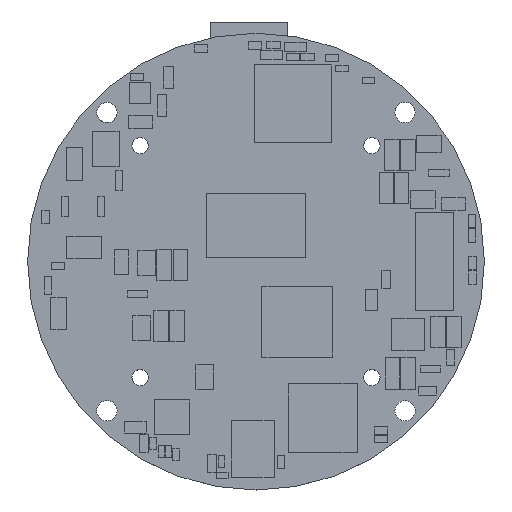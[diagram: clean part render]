
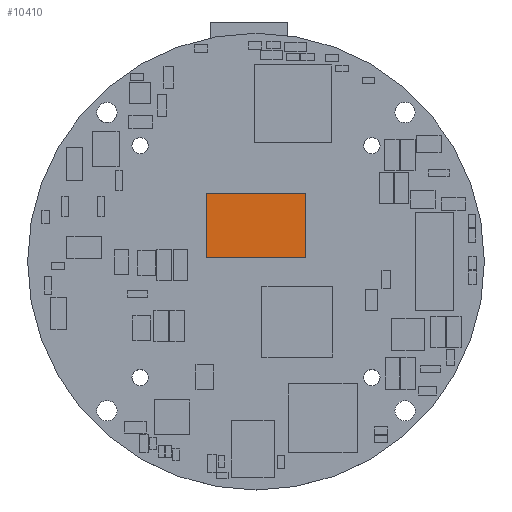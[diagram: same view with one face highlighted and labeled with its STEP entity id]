
A CAD part, top view. The second image highlights one B-rep face of the part: STEP entity #10410.
In plain terms, the highlighted planar face has unit normal (0, 0, 1).
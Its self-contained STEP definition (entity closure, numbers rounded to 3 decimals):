
#1719=DIRECTION('',(0.,-1.,0.));
#1720=VECTOR('',#1719,9.15);
#1721=CARTESIAN_POINT('',(7.057,9.718,2.6));
#1722=LINE('',#1721,#1720);
#1727=DIRECTION('',(-1.,0.,0.));
#1728=VECTOR('',#1727,14.15);
#1729=CARTESIAN_POINT('',(7.057,0.568,2.6));
#1730=LINE('',#1729,#1728);
#1735=DIRECTION('',(0.,1.,0.));
#1736=VECTOR('',#1735,9.15);
#1737=CARTESIAN_POINT('',(-7.093,0.568,2.6));
#1738=LINE('',#1737,#1736);
#1743=DIRECTION('',(1.,0.,0.));
#1744=VECTOR('',#1743,14.15);
#1745=CARTESIAN_POINT('',(-7.093,9.718,2.6));
#1746=LINE('',#1745,#1744);
#7202=CARTESIAN_POINT('',(7.057,0.568,2.6));
#7203=VERTEX_POINT('',#7202);
#7204=CARTESIAN_POINT('',(-7.093,0.568,2.6));
#7205=VERTEX_POINT('',#7204);
#7206=CARTESIAN_POINT('',(7.057,9.718,2.6));
#7207=VERTEX_POINT('',#7206);
#7208=CARTESIAN_POINT('',(-7.093,9.718,2.6));
#7209=VERTEX_POINT('',#7208);
#10399=CARTESIAN_POINT('',(-7.801,0.111,2.6));
#10400=DIRECTION('',(0.,0.,1.));
#10401=DIRECTION('',(1.,0.,0.));
#10402=AXIS2_PLACEMENT_3D('',#10399,#10400,#10401);
#10403=PLANE('',#10402);
#10404=ORIENTED_EDGE('',*,*,#10366,.T.);
#10405=ORIENTED_EDGE('',*,*,#10380,.T.);
#10406=ORIENTED_EDGE('',*,*,#10393,.T.);
#10407=ORIENTED_EDGE('',*,*,#10351,.T.);
#10408=EDGE_LOOP('',(#10404,#10405,#10406,#10407));
#10409=FACE_OUTER_BOUND('',#10408,.F.);
#10410=ADVANCED_FACE('',(#10409),#10403,.T.);
#10351=EDGE_CURVE('',#7207,#7203,#1722,.T.);
#10366=EDGE_CURVE('',#7203,#7205,#1730,.T.);
#10380=EDGE_CURVE('',#7205,#7209,#1738,.T.);
#10393=EDGE_CURVE('',#7209,#7207,#1746,.T.);
